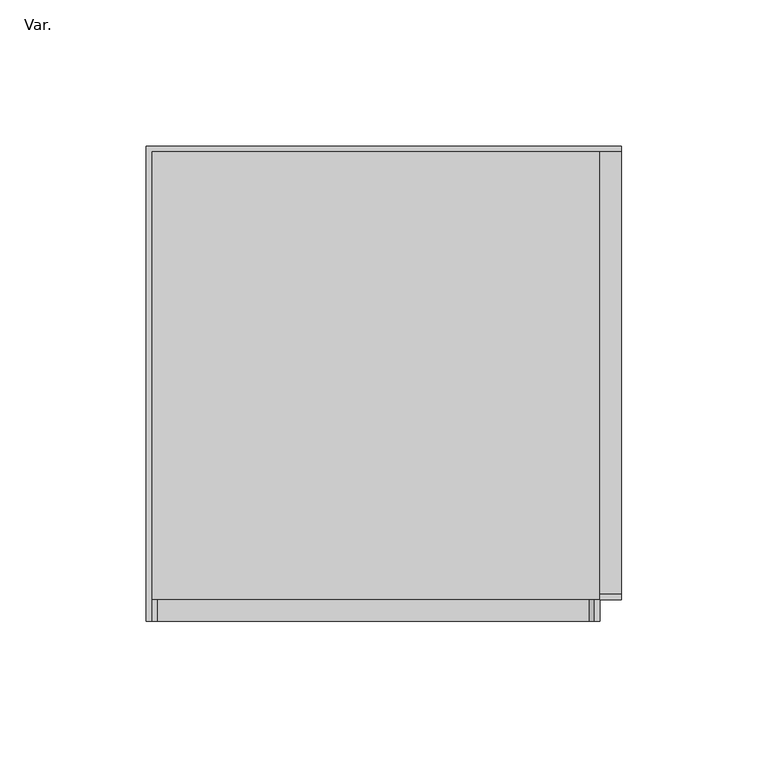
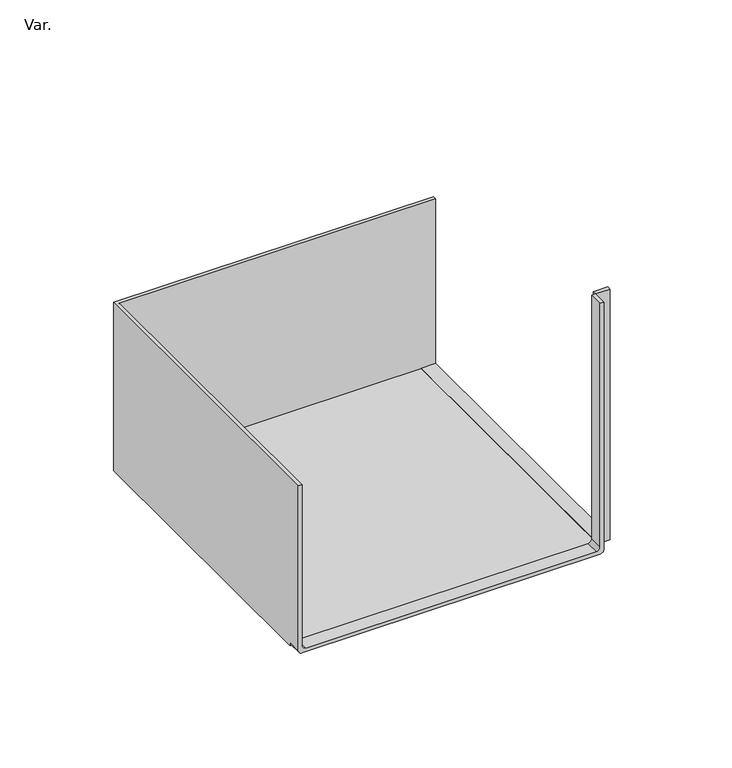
"""IFC4 building model written with IfcOpenShell, lengths in millimetres: pipe fitting geometry, AmancoWavin_Unionesdetubería_CanalesyBajantesZ_NoUsarEsquineroInternoAltoCaudal : Var.."""

from ifc_helpers import new_model, si_unit, frame, origin, place, context, project, spatial, polyline, circle_curve, outline, extrude, source, transform, mapped, element, save
from ifc_brep_helpers import plane_surface, cylinder_surface, revolved_surface, advanced_brep


def var_188b1472(model_context):
    return source(origin(), model_context, "Body", "SolidModel", [
        advanced_brep(
        [(-75.6, 24.0, 2.1103246), (-75.6, 24.0, 88.3932792), (-77.4768635, 24.0, 88.3932792), (-77.4768635, 24.0, 0.0832647), (-75.534248, 24.0, -1.8593508), (75.678427, 24.0, -1.8593508), (77.6, 24.0, 0.0622221), (77.6, 24.0, 132.7274681), (75.6962601, 24.0, 132.7274681), (75.6962601, 24.0, 2.0108417), (73.755743, 24.0, 0.0703246), (-73.56, 24.0, 0.0703246), (-75.6, 31.3, 2.1103246), (-73.56, 31.3, 0.0703246), (73.755743, 31.3, 0.0703246), (75.6962601, 31.3, 2.0108417), (75.6962601, 31.3, 132.7274681), (77.6, 31.3, 132.7274681), (77.6, 31.3, 0.0622221), (75.678427, 31.3, -1.8593508), (-75.534248, 31.3, -1.8593508), (-77.4768635, 186.24, 88.3932792), (-77.4768635, 186.24, -1.8593508), (-77.4768635, 31.3, -1.8593508), (-77.4768635, 31.3, 0.0832647), (-75.6, 184.5, -1.8593508), (-75.6, 184.5, 88.3932792), (84.9, 186.24, -1.8593508), (84.9, 31.2767394, -1.8593508), (77.6, 31.2767394, -1.8593508), (77.6, 184.5, -1.8593508), (84.9, 184.5, 88.3386875), (77.6, 184.5, 0.0), (84.9, 184.5, 0.0), (84.9, 186.24, 88.3386875), (84.9, 33.1536355, 132.7274681), (84.9, 31.2767394, 132.7274681), (84.9, 33.1536355, 0.0), (77.6, 33.1536355, 132.7274681), (77.6, 33.1536355, 0.0)],
        [
            (0, 1),
            (1, 2),
            (2, 3),
            (3, 4, circle_curve(frame((-75.534248, 24.0, 0.0832647), z_axis=(0.0, -1.0, 0.0), x_axis=(1.0, 0.0, 0.0)), 1.9426156)),
            (4, 5),
            (5, 6, circle_curve(frame((75.678427, 24.0, 0.0622221), z_axis=(0.0, -1.0, 0.0), x_axis=(1.0, 0.0, 0.0)), 1.921573)),
            (6, 7),
            (7, 8),
            (8, 9),
            (9, 10, circle_curve(frame((73.755743, 24.0, 2.0108417), z_axis=(0.0, 1.0, 0.0), x_axis=(1.0, 0.0, 0.0)), 1.9405171)),
            (10, 11),
            (11, 0, circle_curve(frame((-73.56, 24.0, 2.1103246), z_axis=(0.0, 1.0, 0.0), x_axis=(1.0, 0.0, 0.0)), 2.04)),
            (12, 13, circle_curve(frame((-73.56, 31.3, 2.1103246), z_axis=(0.0, -1.0, 0.0), x_axis=(1.0, 0.0, 0.0)), 2.04)),
            (13, 14),
            (14, 15, circle_curve(frame((73.755743, 31.3, 2.0108417), z_axis=(0.0, -1.0, 0.0), x_axis=(1.0, 0.0, 0.0)), 1.9405171)),
            (15, 16),
            (16, 17),
            (17, 18),
            (18, 19, circle_curve(frame((75.678427, 31.3, 0.0622221), z_axis=(0.0, 1.0, 0.0), x_axis=(1.0, 0.0, 0.0)), 1.921573)),
            (19, 20),
            (20, 12),
            (2, 21),
            (21, 22),
            (22, 23),
            (23, 24),
            (24, 3),
            (4, 20),
            (19, 5),
            (6, 18),
            (18, 17),
            (17, 7),
            (8, 16),
            (15, 9),
            (10, 14),
            (13, 11),
            (0, 12),
            (20, 25),
            (25, 26),
            (26, 1),
            (24, 20, circle_curve(frame((-75.534248, 31.3, 0.0832647), z_axis=(0.0, -1.0, 0.0), x_axis=(1.0, 0.0, 0.0)), 1.9426156)),
            (27, 28),
            (28, 29),
            (29, 30),
            (30, 25),
            (20, 23),
            (22, 27),
            (31, 26),
            (30, 32),
            (32, 33),
            (33, 31),
            (21, 34),
            (34, 27),
            (31, 34),
            (35, 36),
            (36, 28),
            (33, 37),
            (37, 35),
            (38, 39),
            (39, 32),
            (29, 18),
            (17, 38),
            (35, 38),
            (17, 36),
            (39, 37),
        ],
        [
            plane_surface(frame((-75.6, 24.0, 88.3932792), z_axis=(0.0, -1.0, 0.0), x_axis=(0.0, 0.0, 1.0))),
            plane_surface(frame((-75.6, 31.3, 88.3932792), z_axis=(0.0, 1.0, 0.0), x_axis=(0.0, 0.0, -1.0))),
            plane_surface(frame((-77.4768635, 24.0, 88.3932792), z_axis=(-1.0, 0.0, 0.0), x_axis=(0.0, 1.0, 0.0))),
            plane_surface(frame((-75.534248, 24.0, -1.8593508), z_axis=(0.0, 0.0, -1.0), x_axis=(0.0, 1.0, 0.0))),
            plane_surface(frame((77.6, 24.0, 0.0622221), z_axis=(1.0, 0.0, 0.0), x_axis=(0.0, 1.0, 0.0))),
            plane_surface(frame((75.6962601, 24.0, 132.7274681), z_axis=(-1.0, 0.0, 0.0), x_axis=(0.0, 1.0, 0.0))),
            plane_surface(frame((73.755743, 24.0, 0.0703246), z_axis=(0.0, 0.0, 1.0), x_axis=(0.0, 1.0, 0.0))),
            plane_surface(frame((-75.6, 24.0, 2.1103246), z_axis=(1.0, 0.0, 0.0), x_axis=(0.0, 1.0, 0.0))),
            cylinder_surface(frame((-75.534248, 31.3, 0.0832647), z_axis=(0.0, -1.0, 0.0), x_axis=(1.0, 0.0, 0.0)), 1.9426156),
            cylinder_surface(frame((75.678427, 31.3, 0.0622221), z_axis=(0.0, -1.0, 0.0), x_axis=(1.0, 0.0, 0.0)), 1.921573),
            revolved_surface(polyline([(75.69626009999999, 31.3, 2.0108417), (75.69626009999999, 24.0, 2.0108417)]), (73.755743, 31.3, 2.0108417), (0.0, 1.0, 0.0)),
            revolved_surface(polyline([(-71.52, 31.3, 2.1103246), (-71.52, 24.0, 2.1103246)]), (-73.56, 31.3, 2.1103246), (0.0, 1.0, 0.0)),
            plane_surface(frame((-77.4768635, 31.3, -1.8593508), z_axis=(0.0, 0.0, -1.0), x_axis=(0.0, 1.0, 0.0))),
            plane_surface(frame((-77.4768635, 31.3, 88.3932792), z_axis=(0.0, -1.0, 0.0), x_axis=(0.0, 0.0, -1.0))),
            plane_surface(frame((-75.6, 184.5, 88.3932792), z_axis=(0.0, -1.0, 0.0), x_axis=(0.0, 0.0, -1.0))),
            plane_surface(frame((77.6, 186.24, 88.3932792), z_axis=(0.0, 1.0, 0.0), x_axis=(0.0, 0.0, -1.0))),
            plane_surface(frame((-75.6, 24.0, 88.3932792), z_axis=(0.0, 0.0, 1.0), x_axis=(0.0, 1.0, 0.0))),
            plane_surface(frame((77.6, 24.0, 132.7274681), z_axis=(0.0, 0.0, 1.0), x_axis=(0.0, 1.0, 0.0))),
            plane_surface(frame((84.9, 31.2767394, 132.7274681), z_axis=(1.0, 0.0, 0.0), x_axis=(0.0, -1.0, 0.0))),
            plane_surface(frame((77.6, 31.2767394, 132.7274681), z_axis=(-1.0, 0.0, 0.0), x_axis=(0.0, 1.0, 0.0))),
            plane_surface(frame((84.9, 33.1536355, 132.7274681), z_axis=(0.0, 0.0, 1.0), x_axis=(-1.0, 0.0, 0.0))),
            plane_surface(frame((84.9, 31.2767394, 132.7274681), z_axis=(0.0, -1.0, 0.0), x_axis=(-1.0, 0.0, 0.0))),
            plane_surface(frame((84.9, 184.3536355, 0.0), z_axis=(0.0, 0.0, 1.0), x_axis=(-1.0, 0.0, 0.0))),
            plane_surface(frame((84.9, 33.1536355, 0.0), z_axis=(0.0, 1.0, 0.0), x_axis=(-1.0, 0.0, 0.0))),
        ],
        [
            (0, [[1, 2, 3, 4, 5, 6, 7, 8, 9, 10, 11, 12]]),
            (1, [[13, 14, 15, 16, 17, 18, 19, 20, 21]]),
            (2, [[-3, 22, 23, 24, 25, 26]]),
            (3, [[-5, 27, -20, 28]]),
            (4, [[-7, 29, 30, 31]]),
            (5, [[-9, 32, -16, 33]]),
            (6, [[-11, 34, -14, 35]]),
            (7, [[-1, 36, -21, 37, 38, 39]]),
            (8, [[-4, -26, 40, -27]]),
            (9, [[-6, -28, -19, -29]]),
            (10, [[-10, -33, -15, -34]]),
            (11, [[-12, -35, -13, -36]]),
            (12, [[41, 42, 43, 44, -37, 45, -24, 46]]),
            (13, [[-45, -40, -25]]),
            (14, [[47, -38, -44, 48, 49, 50]]),
            (15, [[51, 52, -46, -23]]),
            (16, [[-2, -39, -47, 53, -51, -22]]),
            (17, [[-8, -31, -17, -32]]),
            (18, [[54, 55, -41, -52, -53, -50, 56, 57]]),
            (19, [[58, 59, -48, -43, 60, -18, 61]]),
            (20, [[-54, 62, -61, 63]]),
            (21, [[-55, -63, -30, -60, -42]]),
            (22, [[-56, -49, -59, 64]]),
            (23, [[-57, -64, -58, -62]]),
        ],
    ),
        extrude(outline(polyline([(77.48, 184.5), (77.48, 31.3), (-75.6, 31.3), (-75.6, 184.5), (77.48, 184.5)])), frame((0.0, 0.0, -1.8593508), z_axis=(0.0, 0.0, 1.0), x_axis=(1.0, 0.0, 0.0)), (0.0, 0.0, 1.0), 1.8593508),
    ])


if __name__ == "__main__":
    model = new_model("IFC4")
    model_context = context("Model", 3, world=origin())
    ifc_project = project(units=[si_unit("LENGTHUNIT", "METRE", prefix="MILLI")], contexts=[model_context])
    site = spatial("IfcSite", under=ifc_project)
    building = spatial("IfcBuilding", under=site)
    placement = place(None, origin())
    var_shape = var_188b1472(model_context)
    element("IfcPipeFitting", 1, ObjectType="AmancoWavin_Unionesdetubería_CanalesyBajantesZ_NoUsarEsquineroInternoAltoCaudal : Var.", at=placement, inside=building, context=model_context, shape_type="MappedRepresentation", body=[
        mapped(var_shape, transform((0.0, 0.0, 0.0), x_axis=(1.0, 0.0, 0.0), y_axis=(0.0, 1.0, 0.0), z_axis=(0.0, 0.0, 1.0))),
    ])
    save(model, "model.ifc")
